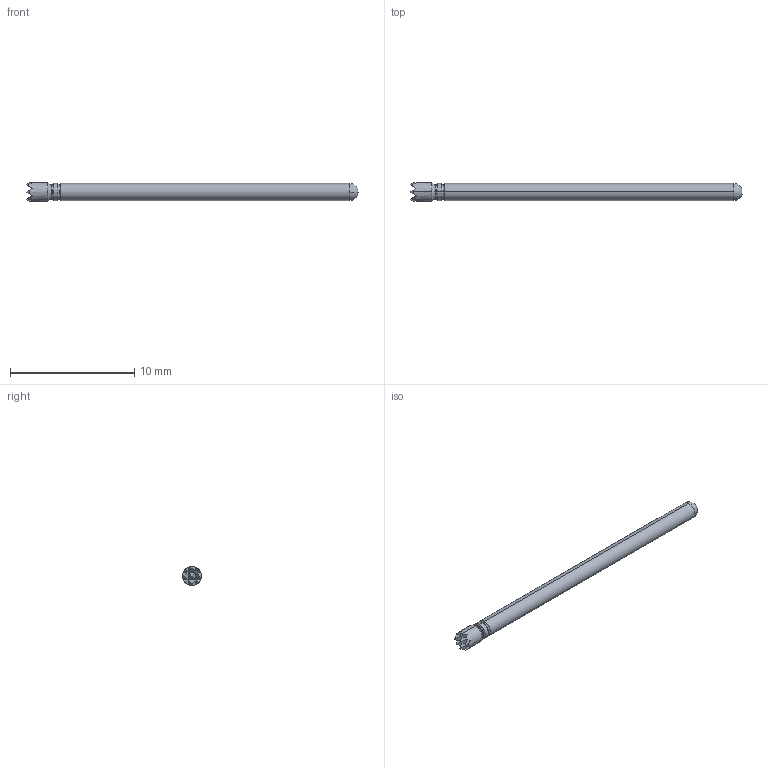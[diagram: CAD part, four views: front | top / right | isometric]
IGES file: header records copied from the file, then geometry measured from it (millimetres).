
Start section: SolidWorks IGES file using analytic representation for surfaces
Global section: file name: Z:\probe solid model mockups\Solidworks models\POGO-25 IGS files\POGO-25H Full.IGS; native system: SolidWorks 2006 by SolidWorks Corporation; preprocessor: SolidWorks 2006 by SolidWorks Corporation; author: tsakatani; date: 071214.084543; units: inch
Bounding box: 26.67 x 1.52 x 1.52 mm (x, y, z)
Surface area: 119.1 mm2 (no closed solid volume)
Topology: 0 solids, 0 shells, 48 faces, 240 edges, 240 vertices
Faces by surface type: bspline 34, revolution 14
